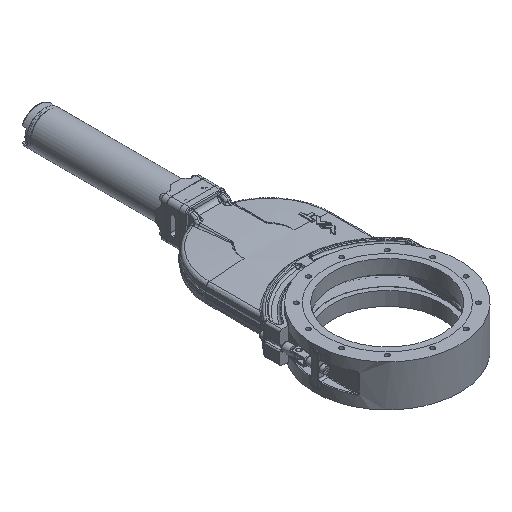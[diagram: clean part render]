
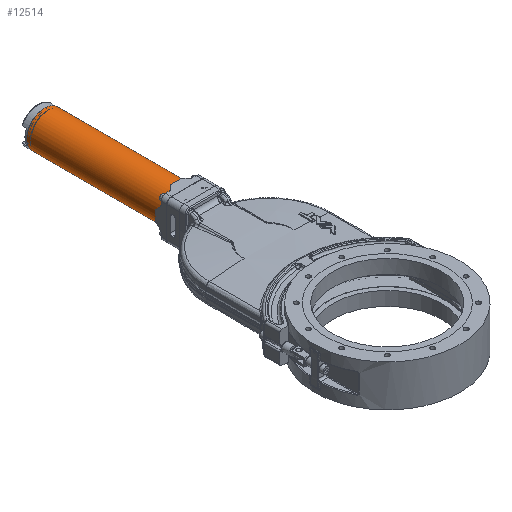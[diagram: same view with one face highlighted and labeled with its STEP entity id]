
A CAD part, isometric view. The second image highlights one B-rep face of the part: STEP entity #12514.
In plain terms, the highlighted free-form (B-spline) face has degree [2, 1] with [7, 2] control points.
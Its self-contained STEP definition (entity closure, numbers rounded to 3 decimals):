
#12439=CARTESIAN_POINT('V3',(43.,-130.5,
   0.));
#12440=VERTEX_POINT('V3',#12439);
#12441=CARTESIAN_POINT('E17',(43.,
   -130.5,0.));
#12442=CARTESIAN_POINT('E17',(43.0,-130.5,
   74.478));
#12443=CARTESIAN_POINT('E17',(-21.5,
   -130.5,37.239));
#12444=CARTESIAN_POINT('E17',(-86.,
   -130.5,0.));
#12445=CARTESIAN_POINT('E17',(-21.5,
   -130.5,-37.239));
#12446=CARTESIAN_POINT('E17',(43.,
   -130.5,-74.478));
#12447=CARTESIAN_POINT('E17',(43.,
   -130.5,0.));
#12455=(BOUNDED_CURVE()B_SPLINE_CURVE(2,(#12441,#12442,#12443,
   #12444,#12445,#12446,#12447),.CIRCULAR_ARC.,.T.,.U.)
   B_SPLINE_CURVE_WITH_KNOTS((3,2,2,3),(0.0,0.333,
   0.667,1.0),.UNSPECIFIED.)CURVE()
   GEOMETRIC_REPRESENTATION_ITEM()RATIONAL_B_SPLINE_CURVE((1.0,
   0.5,1.0,0.5,1.0,0.5,1.0)
   )REPRESENTATION_ITEM('E17'));
#12456=EDGE_CURVE('E17',#12440,#12440,#12455,.T.);
#12464=CARTESIAN_POINT('F3',(43.,-466.108,
   0.));
#12465=CARTESIAN_POINT('F3',(43.,-466.108,
   -74.478));
#12466=CARTESIAN_POINT('F3',(-21.5,
   -466.108,-37.239));
#12467=CARTESIAN_POINT('F3',(-86.,
   -466.108,0.));
#12468=CARTESIAN_POINT('F3',(-21.5,
   -466.108,37.239));
#12469=CARTESIAN_POINT('F3',(43.,-466.108,
   74.478));
#12470=CARTESIAN_POINT('F3',(43.,-466.108,
   0.));
#12471=CARTESIAN_POINT('F3',(43.,-130.5,
   0.));
#12472=CARTESIAN_POINT('F3',(43.,-130.5,
   -74.478));
#12473=CARTESIAN_POINT('F3',(-21.5,
   -130.5,-37.239));
#12474=CARTESIAN_POINT('F3',(-86.,
   -130.5,0.));
#12475=CARTESIAN_POINT('F3',(-21.5,
   -130.5,37.239));
#12476=CARTESIAN_POINT('F3',(43.,-130.5,
   74.478));
#12477=CARTESIAN_POINT('F3',(43.,-130.5,
   0.));
#12485=(BOUNDED_SURFACE()B_SPLINE_SURFACE(2,1,((#12464,#12471),(
   #12465,#12472),(#12466,#12473),(#12467,#12474),(#12468,
   #12475),(#12469,#12476),(#12470,#12477)),.CYLINDRICAL_SURF.,
   .T.,.F.,.U.)B_SPLINE_SURFACE_WITH_KNOTS((3,2,2,3),(2,2),(0.0,
   0.444,0.888,1.332),(0.0,1.0),
   .UNSPECIFIED.)GEOMETRIC_REPRESENTATION_ITEM()
   RATIONAL_B_SPLINE_SURFACE(((1.0,1.0),(0.5,
   0.5),(1.0,1.0),(0.5,
   0.5),(1.0,1.0),(0.5,
   0.5),(1.0,1.0)))REPRESENTATION_ITEM('F3')SURFACE()
   );
#12486=CARTESIAN_POINT('V4',(43.,-466.108,
   0.));
#12487=VERTEX_POINT('V4',#12486);
#12488=CARTESIAN_POINT('E12',(43.,
   -130.5,0.));
#12489=CARTESIAN_POINT('E12',(43.,
   -466.108,0.));
#12490=QUASI_UNIFORM_CURVE('E12',1,(#12488,#12489),.POLYLINE_FORM.,
   .F.,.U.);
#12491=EDGE_CURVE('E12',#12440,#12487,#12490,.T.);
#12492=ORIENTED_EDGE('E12',*,*,#12491,.F.);
#12493=ORIENTED_EDGE('F2',*,*,#12456,.F.);
#12494=ORIENTED_EDGE('E12',*,*,#12491,.T.);
#12495=CARTESIAN_POINT('E18',(43.,
   -466.108,0.));
#12496=CARTESIAN_POINT('E18',(43.,
   -466.108,-74.478));
#12497=CARTESIAN_POINT('E18',(-21.5,
   -466.108,-37.239));
#12498=CARTESIAN_POINT('E18',(-86.,
   -466.108,0.));
#12499=CARTESIAN_POINT('E18',(-21.5,
   -466.108,37.239));
#12500=CARTESIAN_POINT('E18',(43.,
   -466.108,74.478));
#12501=CARTESIAN_POINT('E18',(43.,
   -466.108,0.));
#12509=(BOUNDED_CURVE()B_SPLINE_CURVE(2,(#12495,#12496,#12497,
   #12498,#12499,#12500,#12501),.CIRCULAR_ARC.,.T.,.U.)
   B_SPLINE_CURVE_WITH_KNOTS((3,2,2,3),(0.0,0.444,
   0.888,1.332),.UNSPECIFIED.)CURVE()
   GEOMETRIC_REPRESENTATION_ITEM()RATIONAL_B_SPLINE_CURVE((1.0,
   0.5,1.0,0.5,1.0,0.5,1.0)
   )REPRESENTATION_ITEM('E18'));
#12510=EDGE_CURVE('E18',#12487,#12487,#12509,.T.);
#12511=ORIENTED_EDGE('E18',*,*,#12510,.F.);
#12512=EDGE_LOOP('F3',(#12492,#12493,#12494,#12511));
#12513=FACE_OUTER_BOUND('F3',#12512,.F.);
#12514=ADVANCED_FACE('F3',(#12513),#12485,.T.);
